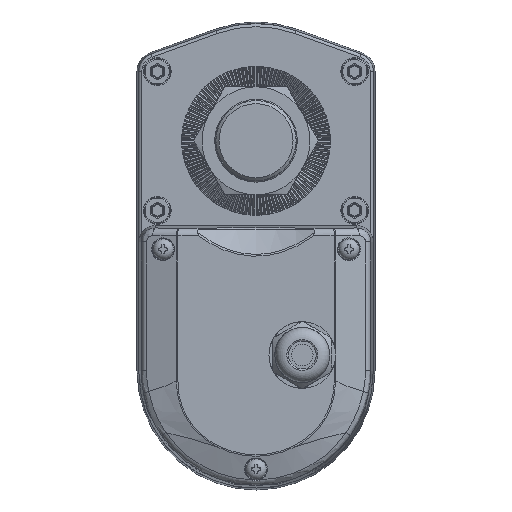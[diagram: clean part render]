
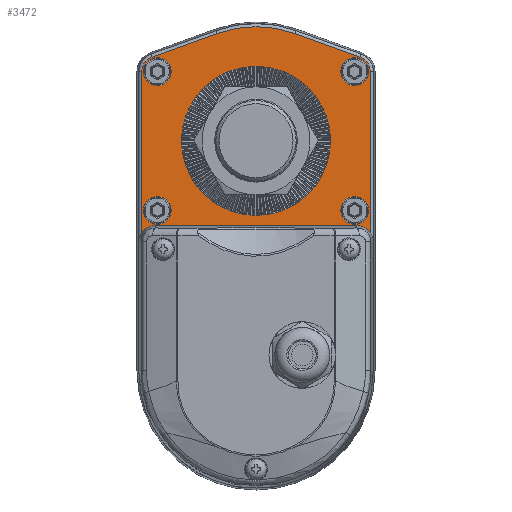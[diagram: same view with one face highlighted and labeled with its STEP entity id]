
A CAD part, top view. The second image highlights one B-rep face of the part: STEP entity #3472.
In plain terms, the highlighted planar face has unit normal (0, 0, 1).
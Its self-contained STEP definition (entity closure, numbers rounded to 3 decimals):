
#408 = DIRECTION ( 'NONE',  ( 0., 0., 1. ) ) ;
#1019 = LINE ( 'NONE', #15216, #29167 ) ;
#1145 = CIRCLE ( 'NONE', #17443, 37.017 ) ;
#1365 = EDGE_CURVE ( 'NONE', #22090, #4115, #32549, .T. ) ;
#1419 = EDGE_CURVE ( 'NONE', #4115, #31427, #2700, .T. ) ;
#1467 = AXIS2_PLACEMENT_3D ( 'NONE', #20852, #4506, #23567 ) ;
#1876 = VERTEX_POINT ( 'NONE', #25545 ) ;
#1883 = FACE_BOUND ( 'NONE', #13332, .T. ) ;
#2167 = CIRCLE ( 'NONE', #13913, 4.5 ) ;
#2339 = EDGE_CURVE ( 'NONE', #31427, #22464, #12964, .T. ) ;
#2480 = DIRECTION ( 'NONE',  ( -0.94, -0.34, 0. ) ) ;
#2700 = CIRCLE ( 'NONE', #20310, 5.017 ) ;
#3438 = VECTOR ( 'NONE', #20380, 1000. ) ;
#3472 = ADVANCED_FACE ( 'NONE', ( #17244, #22775, #30034, #1883, #15555, #8293 ), #9143, .F. ) ;
#3596 = ORIENTED_EDGE ( 'NONE', *, *, #1419, .T. ) ;
#3763 = CARTESIAN_POINT ( 'NONE',  ( -24.1, 0., 40. ) ) ;
#4115 = VERTEX_POINT ( 'NONE', #24883 ) ;
#4374 = ORIENTED_EDGE ( 'NONE', *, *, #2339, .T. ) ;
#4506 = DIRECTION ( 'NONE',  ( 0., 0., 1. ) ) ;
#5205 = DIRECTION ( 'NONE',  ( 0., -1., 0. ) ) ;
#5549 = ORIENTED_EDGE ( 'NONE', *, *, #1365, .T. ) ;
#5659 = VECTOR ( 'NONE', #5205, 1000. ) ;
#6193 = DIRECTION ( 'NONE',  ( 0., 0., 1. ) ) ;
#6522 = CARTESIAN_POINT ( 'NONE',  ( 0., 0., 40. ) ) ;
#7076 = DIRECTION ( 'NONE',  ( -0.94, 0.34, 0. ) ) ;
#7427 = VERTEX_POINT ( 'NONE', #20216 ) ;
#7685 = CIRCLE ( 'NONE', #11173, 4.5 ) ;
#8196 = EDGE_CURVE ( 'NONE', #34263, #24909, #24362, .T. ) ;
#8293 = FACE_OUTER_BOUND ( 'NONE', #8876, .T. ) ;
#8444 = CARTESIAN_POINT ( 'NONE',  ( -31.995, 22.46, 40. ) ) ;
#8876 = EDGE_LOOP ( 'NONE', ( #4374, #21335, #20325, #18644, #19326, #19652, #13568, #13575, #5549, #3596 ) ) ;
#9143 = PLANE ( 'NONE',  #20717 ) ;
#9187 = EDGE_CURVE ( 'NONE', #24038, #24038, #2167, .T. ) ;
#9259 = DIRECTION ( 'NONE',  ( 0., 0., -1. ) ) ;
#9536 = DIRECTION ( 'NONE',  ( 0., 0., 1. ) ) ;
#9826 = EDGE_CURVE ( 'NONE', #15991, #15991, #7685, .T. ) ;
#9968 = ORIENTED_EDGE ( 'NONE', *, *, #26283, .F. ) ;
#10408 = CIRCLE ( 'NONE', #22998, 5.3 ) ;
#10688 = ORIENTED_EDGE ( 'NONE', *, *, #25708, .F. ) ;
#10951 = CARTESIAN_POINT ( 'NONE',  ( 32., 22.46, 40. ) ) ;
#10993 = DIRECTION ( 'NONE',  ( 0., 0., 1. ) ) ;
#11156 = CARTESIAN_POINT ( 'NONE',  ( -32.675, -27.5, 40. ) ) ;
#11173 = AXIS2_PLACEMENT_3D ( 'NONE', #27310, #10993, #30054 ) ;
#11201 = DIRECTION ( 'NONE',  ( -1., 0., 0. ) ) ;
#11321 = AXIS2_PLACEMENT_3D ( 'NONE', #16713, #408, #19445 ) ;
#12199 = CIRCLE ( 'NONE', #17250, 4.5 ) ;
#12355 = CARTESIAN_POINT ( 'NONE',  ( 32., -22.54, 40. ) ) ;
#12593 = CARTESIAN_POINT ( 'NONE',  ( 0., 0., 40. ) ) ;
#12964 = LINE ( 'NONE', #21547, #5659 ) ;
#13332 = EDGE_LOOP ( 'NONE', ( #15487 ) ) ;
#13568 = ORIENTED_EDGE ( 'NONE', *, *, #22542, .T. ) ;
#13575 = ORIENTED_EDGE ( 'NONE', *, *, #19187, .T. ) ;
#13696 = DIRECTION ( 'NONE',  ( -1., 0., 0. ) ) ;
#13831 = CARTESIAN_POINT ( 'NONE',  ( 37.012, -29.754, 40. ) ) ;
#13913 = AXIS2_PLACEMENT_3D ( 'NONE', #12355, #31362, #15076 ) ;
#14288 = CARTESIAN_POINT ( 'NONE',  ( 27.5, -22.54, 40. ) ) ;
#14610 = DIRECTION ( 'NONE',  ( 0., 1., 0. ) ) ;
#15076 = DIRECTION ( 'NONE',  ( -1., 0., 0. ) ) ;
#15117 = CARTESIAN_POINT ( 'NONE',  ( -32.675, -32.8, 40. ) ) ;
#15216 = CARTESIAN_POINT ( 'NONE',  ( 12.586, 34.812, 40. ) ) ;
#15306 = DIRECTION ( 'NONE',  ( -1., 0., 0. ) ) ;
#15487 = ORIENTED_EDGE ( 'NONE', *, *, #9187, .F. ) ;
#15555 = FACE_BOUND ( 'NONE', #27474, .T. ) ;
#15991 = VERTEX_POINT ( 'NONE', #22484 ) ;
#16001 = ORIENTED_EDGE ( 'NONE', *, *, #29713, .F. ) ;
#16231 = EDGE_CURVE ( 'NONE', #20825, #22464, #10408, .T. ) ;
#16269 = CARTESIAN_POINT ( 'NONE',  ( -37.012, -29.754, 40. ) ) ;
#16300 = CIRCLE ( 'NONE', #1467, 4.5 ) ;
#16529 = EDGE_LOOP ( 'NONE', ( #10688 ) ) ;
#16713 = CARTESIAN_POINT ( 'NONE',  ( 31.995, 22.46, 40. ) ) ;
#17244 = FACE_BOUND ( 'NONE', #16529, .T. ) ;
#17250 = AXIS2_PLACEMENT_3D ( 'NONE', #10951, #29996, #13696 ) ;
#17443 = AXIS2_PLACEMENT_3D ( 'NONE', #22505, #6193, #25211 ) ;
#17824 = DIRECTION ( 'NONE',  ( 1., 0., 0. ) ) ;
#18644 = ORIENTED_EDGE ( 'NONE', *, *, #30999, .F. ) ;
#19187 = EDGE_CURVE ( 'NONE', #31538, #22090, #1145, .T. ) ;
#19326 = ORIENTED_EDGE ( 'NONE', *, *, #20998, .T. ) ;
#19445 = DIRECTION ( 'NONE',  ( -1., 0., 0. ) ) ;
#19652 = ORIENTED_EDGE ( 'NONE', *, *, #8196, .T. ) ;
#19734 = CARTESIAN_POINT ( 'NONE',  ( -12.586, 34.812, 40. ) ) ;
#20216 = CARTESIAN_POINT ( 'NONE',  ( -27.5, 22.46, 40. ) ) ;
#20310 = AXIS2_PLACEMENT_3D ( 'NONE', #8444, #27507, #11201 ) ;
#20325 = ORIENTED_EDGE ( 'NONE', *, *, #30843, .F. ) ;
#20380 = DIRECTION ( 'NONE',  ( -1., 0., 0. ) ) ;
#20717 = AXIS2_PLACEMENT_3D ( 'NONE', #6522, #9259, #28313 ) ;
#20825 = VERTEX_POINT ( 'NONE', #11156 ) ;
#20852 = CARTESIAN_POINT ( 'NONE',  ( -32., 22.46, 40. ) ) ;
#20998 = EDGE_CURVE ( 'NONE', #29937, #34263, #31363, .T. ) ;
#21335 = ORIENTED_EDGE ( 'NONE', *, *, #16231, .F. ) ;
#21547 = CARTESIAN_POINT ( 'NONE',  ( -37.012, -74.495, 40. ) ) ;
#21575 = CARTESIAN_POINT ( 'NONE',  ( -33.701, 27.179, 40. ) ) ;
#22090 = VERTEX_POINT ( 'NONE', #19734 ) ;
#22464 = VERTEX_POINT ( 'NONE', #16269 ) ;
#22484 = CARTESIAN_POINT ( 'NONE',  ( -27.5, -22.54, 40. ) ) ;
#22505 = CARTESIAN_POINT ( 'NONE',  ( 0., 0., 40. ) ) ;
#22542 = EDGE_CURVE ( 'NONE', #24909, #31538, #1019, .T. ) ;
#22775 = FACE_BOUND ( 'NONE', #24647, .T. ) ;
#22998 = AXIS2_PLACEMENT_3D ( 'NONE', #15117, #34136, #17824 ) ;
#23567 = DIRECTION ( 'NONE',  ( 1., 0., 0. ) ) ;
#23618 = VERTEX_POINT ( 'NONE', #3763 ) ;
#24038 = VERTEX_POINT ( 'NONE', #14288 ) ;
#24074 = EDGE_LOOP ( 'NONE', ( #30132 ) ) ;
#24092 = VECTOR ( 'NONE', #14610, 1000. ) ;
#24362 = CIRCLE ( 'NONE', #11321, 5.017 ) ;
#24647 = EDGE_LOOP ( 'NONE', ( #16001 ) ) ;
#24723 = AXIS2_PLACEMENT_3D ( 'NONE', #12593, #31593, #15306 ) ;
#24883 = CARTESIAN_POINT ( 'NONE',  ( -33.701, 27.179, 40. ) ) ;
#24909 = VERTEX_POINT ( 'NONE', #34424 ) ;
#24979 = CARTESIAN_POINT ( 'NONE',  ( 37.012, 22.46, 40. ) ) ;
#25158 = LINE ( 'NONE', #25832, #3438 ) ;
#25211 = DIRECTION ( 'NONE',  ( -1., 0., 0. ) ) ;
#25290 = VECTOR ( 'NONE', #2480, 1000. ) ;
#25435 = CARTESIAN_POINT ( 'NONE',  ( 12.586, 34.812, 40. ) ) ;
#25545 = CARTESIAN_POINT ( 'NONE',  ( 27.5, 22.46, 40. ) ) ;
#25708 = EDGE_CURVE ( 'NONE', #23618, #23618, #33920, .T. ) ;
#25792 = CARTESIAN_POINT ( 'NONE',  ( 32.675, -27.5, 40. ) ) ;
#25832 = CARTESIAN_POINT ( 'NONE',  ( -32.675, -27.5, 40. ) ) ;
#25835 = CARTESIAN_POINT ( 'NONE',  ( 32.675, -32.8, 40. ) ) ;
#26283 = EDGE_CURVE ( 'NONE', #1876, #1876, #12199, .T. ) ;
#27084 = VERTEX_POINT ( 'NONE', #25792 ) ;
#27310 = CARTESIAN_POINT ( 'NONE',  ( -32., -22.54, 40. ) ) ;
#27474 = EDGE_LOOP ( 'NONE', ( #9968 ) ) ;
#27507 = DIRECTION ( 'NONE',  ( 0., 0., 1. ) ) ;
#28313 = DIRECTION ( 'NONE',  ( -1., 0., 0. ) ) ;
#28605 = DIRECTION ( 'NONE',  ( 1., 0., 0. ) ) ;
#29167 = VECTOR ( 'NONE', #7076, 1000. ) ;
#29713 = EDGE_CURVE ( 'NONE', #7427, #7427, #16300, .T. ) ;
#29937 = VERTEX_POINT ( 'NONE', #13831 ) ;
#29996 = DIRECTION ( 'NONE',  ( 0., 0., 1. ) ) ;
#30034 = FACE_BOUND ( 'NONE', #24074, .T. ) ;
#30054 = DIRECTION ( 'NONE',  ( 1., 0., 0. ) ) ;
#30132 = ORIENTED_EDGE ( 'NONE', *, *, #9826, .F. ) ;
#30843 = EDGE_CURVE ( 'NONE', #27084, #20825, #25158, .T. ) ;
#30999 = EDGE_CURVE ( 'NONE', #29937, #27084, #34560, .T. ) ;
#31362 = DIRECTION ( 'NONE',  ( 0., 0., 1. ) ) ;
#31363 = LINE ( 'NONE', #33628, #24092 ) ;
#31427 = VERTEX_POINT ( 'NONE', #33422 ) ;
#31538 = VERTEX_POINT ( 'NONE', #25435 ) ;
#31593 = DIRECTION ( 'NONE',  ( 0., 0., 1. ) ) ;
#32549 = LINE ( 'NONE', #21575, #25290 ) ;
#33422 = CARTESIAN_POINT ( 'NONE',  ( -37.012, 22.46, 40. ) ) ;
#33628 = CARTESIAN_POINT ( 'NONE',  ( 37.012, 22.46, 40. ) ) ;
#33900 = AXIS2_PLACEMENT_3D ( 'NONE', #25835, #9536, #28605 ) ;
#33920 = CIRCLE ( 'NONE', #24723, 24.1 ) ;
#34136 = DIRECTION ( 'NONE',  ( 0., 0., 1. ) ) ;
#34263 = VERTEX_POINT ( 'NONE', #24979 ) ;
#34424 = CARTESIAN_POINT ( 'NONE',  ( 33.701, 27.179, 40. ) ) ;
#34560 = CIRCLE ( 'NONE', #33900, 5.3 ) ;
